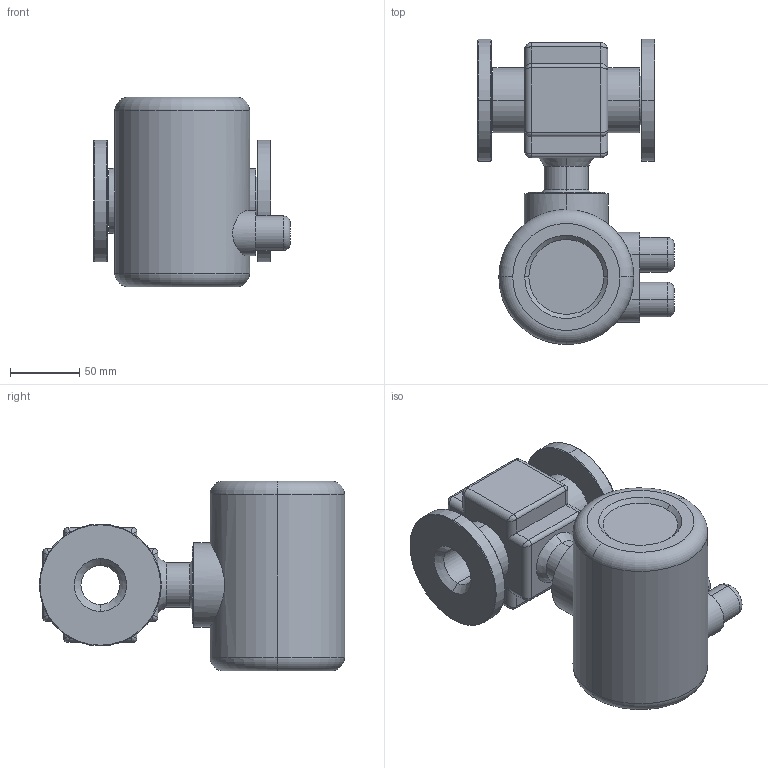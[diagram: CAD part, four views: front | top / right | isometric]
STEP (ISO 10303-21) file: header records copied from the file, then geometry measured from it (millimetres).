
FILE_DESCRIPTION (( 'STEP AP203' ), '1' );
FILE_NAME ('ﾐﾑ40ﾑ.STEP', '2019-01-31T06:09:16', ( '' ), ( '' ), 'SwSTEP 2.0', 'SolidWorks 2016', '' );
FILE_SCHEMA (( 'CONFIG_CONTROL_DESIGN' ));
Length unit declared in the file: millimetre
Products named in the file (1): ﾐﾑ40ﾑ
Bounding box: 142 x 220.34 x 137 mm (x, y, z)
Volume: 1577110 mm3; surface area: 135224.5 mm2
Topology: 1 solids, 1 shells, 158 faces, 356 edges, 200 vertices
Faces by surface type: cylinder 69, plane 44, bspline 19, cone 18, torus 8
Entity records: 5269 total; most frequent: CARTESIAN_POINT 1906, DIRECTION 690, ORIENTED_EDGE 680, EDGE_CURVE 340, AXIS2_PLACEMENT_3D 266, VERTEX_POINT 200, EDGE_LOOP 176, ADVANCED_FACE 158
